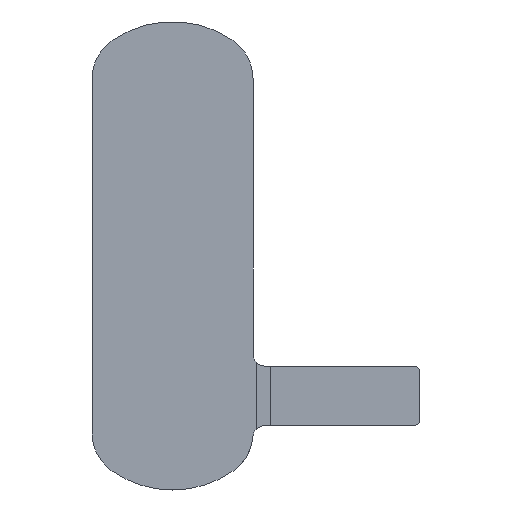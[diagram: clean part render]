
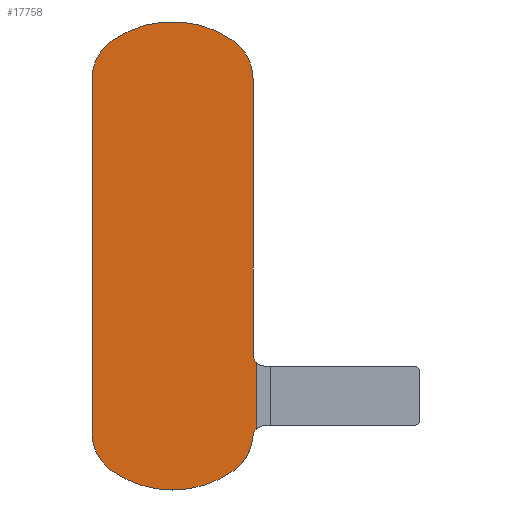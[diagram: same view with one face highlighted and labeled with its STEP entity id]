
A CAD part, front view. The second image highlights one B-rep face of the part: STEP entity #17758.
In plain terms, the highlighted planar face has unit normal (0, -1, 0).
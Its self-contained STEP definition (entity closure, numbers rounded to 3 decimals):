
#17628 = VERTEX_POINT ( 'NONE', #27310 ) ;
#17640 = EDGE_CURVE ( 'NONE', #17628, #17641, #27357, .T. ) ;
#17641 = VERTEX_POINT ( 'NONE', #27348 ) ;
#17647 = VERTEX_POINT ( 'NONE', #27404 ) ;
#17650 = EDGE_CURVE ( 'NONE', #17647, #17652, #27399, .T. ) ;
#17652 = VERTEX_POINT ( 'NONE', #27393 ) ;
#17658 = EDGE_CURVE ( 'NONE', #17709, #17628, #27378, .T. ) ;
#17672 = EDGE_CURVE ( 'NONE', #17689, #17673, #27432, .T. ) ;
#17673 = VERTEX_POINT ( 'NONE', #27423 ) ;
#17688 = EDGE_CURVE ( 'NONE', #17705, #17689, #27460, .T. ) ;
#17689 = VERTEX_POINT ( 'NONE', #27453 ) ;
#17704 = EDGE_CURVE ( 'NONE', #17641, #17705, #27494, .T. ) ;
#17705 = VERTEX_POINT ( 'NONE', #27485 ) ;
#17709 = VERTEX_POINT ( 'NONE', #27479 ) ;
#17719 = EDGE_CURVE ( 'NONE', #17790, #17720, #27530, .T. ) ;
#17720 = VERTEX_POINT ( 'NONE', #27521 ) ;
#17723 = EDGE_CURVE ( 'NONE', #17737, #17647, #27520, .T. ) ;
#17727 = EDGE_CURVE ( 'NONE', #17652, #17728, #27509, .T. ) ;
#17728 = VERTEX_POINT ( 'NONE', #27504 ) ;
#17736 = EDGE_CURVE ( 'NONE', #17673, #17737, #27556, .T. ) ;
#17737 = VERTEX_POINT ( 'NONE', #27552 ) ;
#17758 = ADVANCED_FACE ( 'NONE', ( #27591 ), #27586, .F. ) ;
#17759 = EDGE_LOOP ( 'NONE', ( #17760, #17761, #17762, #17763, #17822, #17823, #17824, #17825, #17826, #17827, #17828, #17829 ) ) ;
#17760 = ORIENTED_EDGE ( 'NONE', *, *, #17658, .F. ) ;
#17761 = ORIENTED_EDGE ( 'NONE', *, *, #17783, .F. ) ;
#17762 = ORIENTED_EDGE ( 'NONE', *, *, #17719, .F. ) ;
#17763 = ORIENTED_EDGE ( 'NONE', *, *, #17789, .F. ) ;
#17783 = EDGE_CURVE ( 'NONE', #17720, #17709, #27623, .T. ) ;
#17789 = EDGE_CURVE ( 'NONE', #17728, #17790, #27610, .T. ) ;
#17790 = VERTEX_POINT ( 'NONE', #27603 ) ;
#17822 = ORIENTED_EDGE ( 'NONE', *, *, #17727, .F. ) ;
#17823 = ORIENTED_EDGE ( 'NONE', *, *, #17650, .F. ) ;
#17824 = ORIENTED_EDGE ( 'NONE', *, *, #17723, .F. ) ;
#17825 = ORIENTED_EDGE ( 'NONE', *, *, #17736, .F. ) ;
#17826 = ORIENTED_EDGE ( 'NONE', *, *, #17672, .F. ) ;
#17827 = ORIENTED_EDGE ( 'NONE', *, *, #17688, .F. ) ;
#17828 = ORIENTED_EDGE ( 'NONE', *, *, #17704, .F. ) ;
#17829 = ORIENTED_EDGE ( 'NONE', *, *, #17640, .F. ) ;
#27310 = CARTESIAN_POINT ( 'NONE',  ( 6.75, 0., 14.457 ) ) ;
#27348 = CARTESIAN_POINT ( 'NONE',  ( 6.75, 0., -8.651 ) ) ;
#27349 = DIRECTION ( 'NONE',  ( 0., 0., -1. ) ) ;
#27350 = VECTOR ( 'NONE', #27349, 1000. ) ;
#27351 = CARTESIAN_POINT ( 'NONE',  ( 6.75, 0., 14.457 ) ) ;
#27357 = LINE ( 'NONE', #27351, #27350 ) ;
#27374 = DIRECTION ( 'NONE',  ( 0., 0., 1. ) ) ;
#27375 = DIRECTION ( 'NONE',  ( 0., 1., 0. ) ) ;
#27376 = CARTESIAN_POINT ( 'NONE',  ( 2.85, 0., 14.457 ) ) ;
#27377 = AXIS2_PLACEMENT_3D ( 'NONE', #27376, #27375, #27374 ) ;
#27378 = CIRCLE ( 'NONE', #27377, 3.9 ) ;
#27393 = CARTESIAN_POINT ( 'NONE',  ( -5.073, 0., -18.464 ) ) ;
#27395 = DIRECTION ( 'NONE',  ( 0., 0., 1. ) ) ;
#27396 = DIRECTION ( 'NONE',  ( 0., 1., 0. ) ) ;
#27397 = CARTESIAN_POINT ( 'NONE',  ( 0., 0., -11.151 ) ) ;
#27398 = AXIS2_PLACEMENT_3D ( 'NONE', #27397, #27396, #27395 ) ;
#27399 = CIRCLE ( 'NONE', #27398, 8.9 ) ;
#27404 = CARTESIAN_POINT ( 'NONE',  ( 0., 0., -20.051 ) ) ;
#27423 = CARTESIAN_POINT ( 'NONE',  ( 6.738, 0., -15.571 ) ) ;
#27424 = DIRECTION ( 'NONE',  ( 0., 0., 1. ) ) ;
#27425 = DIRECTION ( 'NONE',  ( 0., -1., 0. ) ) ;
#27426 = CARTESIAN_POINT ( 'NONE',  ( 7.734, 0., -15.651 ) ) ;
#27427 = AXIS2_PLACEMENT_3D ( 'NONE', #27426, #27425, #27424 ) ;
#27432 = CIRCLE ( 'NONE', #27427, 1. ) ;
#27453 = CARTESIAN_POINT ( 'NONE',  ( 7.004, 0., -14.968 ) ) ;
#27454 = DIRECTION ( 'NONE',  ( 0., 0., -1. ) ) ;
#27455 = VECTOR ( 'NONE', #27454, 1000. ) ;
#27456 = CARTESIAN_POINT ( 'NONE',  ( 7.004, 0., -14.968 ) ) ;
#27460 = LINE ( 'NONE', #27456, #27455 ) ;
#27479 = CARTESIAN_POINT ( 'NONE',  ( 5.073, 0., 17.661 ) ) ;
#27485 = CARTESIAN_POINT ( 'NONE',  ( 7.004, 0., -9.317 ) ) ;
#27486 = DIRECTION ( 'NONE',  ( 0., 0., 1. ) ) ;
#27487 = DIRECTION ( 'NONE',  ( 0., -1., 0. ) ) ;
#27488 = CARTESIAN_POINT ( 'NONE',  ( 7.75, 0., -8.651 ) ) ;
#27489 = AXIS2_PLACEMENT_3D ( 'NONE', #27488, #27487, #27486 ) ;
#27494 = CIRCLE ( 'NONE', #27489, 1. ) ;
#27504 = CARTESIAN_POINT ( 'NONE',  ( -6.75, 0., -15.259 ) ) ;
#27505 = DIRECTION ( 'NONE',  ( 0., 0., 1. ) ) ;
#27506 = DIRECTION ( 'NONE',  ( 0., 1., 0. ) ) ;
#27507 = CARTESIAN_POINT ( 'NONE',  ( -2.85, 0., -15.259 ) ) ;
#27508 = AXIS2_PLACEMENT_3D ( 'NONE', #27507, #27506, #27505 ) ;
#27509 = CIRCLE ( 'NONE', #27508, 3.9 ) ;
#27516 = DIRECTION ( 'NONE',  ( 0., 0., 1. ) ) ;
#27517 = DIRECTION ( 'NONE',  ( 0., 1., 0. ) ) ;
#27518 = CARTESIAN_POINT ( 'NONE',  ( 0., 0., -11.151 ) ) ;
#27519 = AXIS2_PLACEMENT_3D ( 'NONE', #27518, #27517, #27516 ) ;
#27520 = CIRCLE ( 'NONE', #27519, 8.9 ) ;
#27521 = CARTESIAN_POINT ( 'NONE',  ( -5.073, 0., 17.661 ) ) ;
#27522 = DIRECTION ( 'NONE',  ( 0., 0., 1. ) ) ;
#27523 = DIRECTION ( 'NONE',  ( 0., 1., 0. ) ) ;
#27524 = CARTESIAN_POINT ( 'NONE',  ( -2.85, 0., 14.457 ) ) ;
#27525 = AXIS2_PLACEMENT_3D ( 'NONE', #27524, #27523, #27522 ) ;
#27530 = CIRCLE ( 'NONE', #27525, 3.9 ) ;
#27552 = CARTESIAN_POINT ( 'NONE',  ( 5.073, 0., -18.464 ) ) ;
#27553 = DIRECTION ( 'NONE',  ( 0., 0., 1. ) ) ;
#27554 = DIRECTION ( 'NONE',  ( 0., 1., 0. ) ) ;
#27555 = AXIS2_PLACEMENT_3D ( 'NONE', #27562, #27554, #27553 ) ;
#27556 = CIRCLE ( 'NONE', #27555, 3.9 ) ;
#27562 = CARTESIAN_POINT ( 'NONE',  ( 2.85, 0., -15.259 ) ) ;
#27581 = DIRECTION ( 'NONE',  ( 0., 0., 1. ) ) ;
#27582 = DIRECTION ( 'NONE',  ( 0., 1., 0. ) ) ;
#27583 = AXIS2_PLACEMENT_3D ( 'NONE', #27585, #27582, #27581 ) ;
#27585 = CARTESIAN_POINT ( 'NONE',  ( 2.85, 0., 14.457 ) ) ;
#27586 = PLANE ( 'NONE',  #27583 ) ;
#27591 = FACE_OUTER_BOUND ( 'NONE', #17759, .T. ) ;
#27603 = CARTESIAN_POINT ( 'NONE',  ( -6.75, 0., 14.457 ) ) ;
#27604 = DIRECTION ( 'NONE',  ( 0., 0., 1. ) ) ;
#27605 = VECTOR ( 'NONE', #27604, 1000. ) ;
#27606 = CARTESIAN_POINT ( 'NONE',  ( -6.75, 0., 14.457 ) ) ;
#27610 = LINE ( 'NONE', #27606, #27605 ) ;
#27614 = DIRECTION ( 'NONE',  ( 0., 0., 1. ) ) ;
#27615 = DIRECTION ( 'NONE',  ( 0., 1., 0. ) ) ;
#27616 = CARTESIAN_POINT ( 'NONE',  ( 0., 0., 10.349 ) ) ;
#27617 = AXIS2_PLACEMENT_3D ( 'NONE', #27616, #27615, #27614 ) ;
#27623 = CIRCLE ( 'NONE', #27617, 8.9 ) ;
